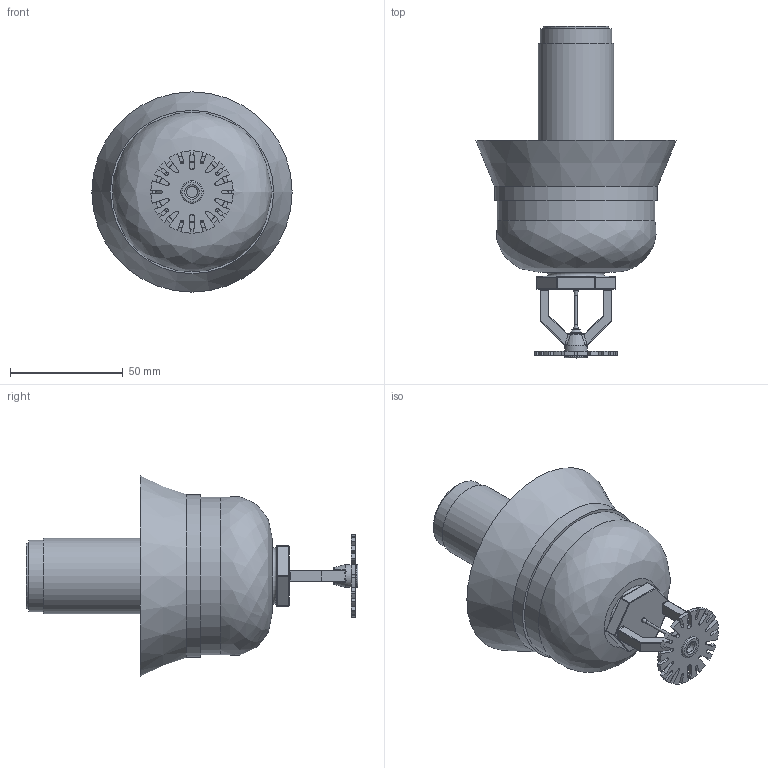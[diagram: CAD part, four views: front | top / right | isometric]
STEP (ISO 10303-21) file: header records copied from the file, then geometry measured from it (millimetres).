
FILE_DESCRIPTION(/* description */ ('VIC SPRINKLER V3614 K5.6 DRY PENDENT QUICK RESPONSE (NPT)'),/* implementation_level */ '2;1');
FILE_NAME(/* name */ 'C:\Users\Public\Documents\Victaulic.Temp\A641\Victaulic_FP-Sprinkler_V3614_DRY_QR_Pendent (NPT)_EXT_1 (25).stp',/* time_stamp */ '2024-09-24T08:14:38+02:00',/* author */ ('kkamble'),/* organization */ ('Victaulic'),/* preprocessor_version */ 'ST-DEVELOPER v18',/* originating_system */ 'Autodesk Inventor 2020',/* authorisation */ '');
FILE_SCHEMA (('AUTOMOTIVE_DESIGN { 1 0 10303 214 3 1 1 }'));
Length unit declared in the file: inch
Products named in the file (2): V3614_Exteded-01.0; V3614-01
Assembly tree (1 placements, depth 2):
  V3614_Exteded-01.0
    V3614-01
Bounding box: 88.9 x 147.32 x 88.9 mm (x, y, z)
Volume: 63705.4 mm3; surface area: 57343.7 mm2
Topology: 1 solids, 1 shells, 309 faces, 813 edges, 512 vertices
Faces by surface type: plane 104, cylinder 100, bspline 71, torus 15, sphere 12, cone 7
Full cylindrical faces by diameter (mm): 1.27 x1, 5.08 x2, 10.16 x2, 20.93 x1, 26.645 x1, 29.185 x1, 31.725 x1, 33.401 x1, 67.31 x1, 69.85 x2, 72.39 x1
Entity records: 11279 total; most frequent: CARTESIAN_POINT 3439, ORIENTED_EDGE 1618, DIRECTION 1507, EDGE_CURVE 809, AXIS2_PLACEMENT_3D 577, VERTEX_POINT 512, LINE 353, VECTOR 353
